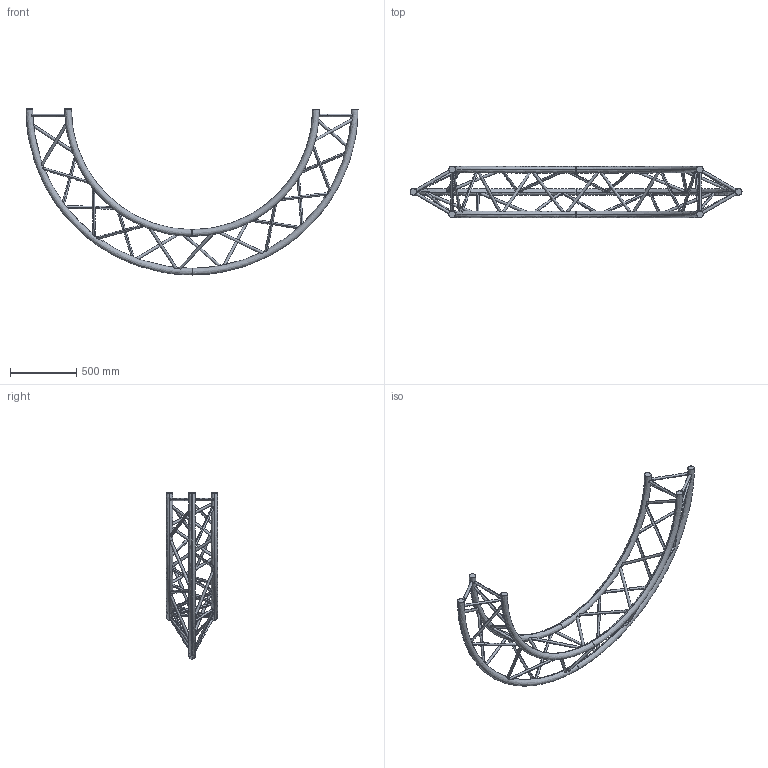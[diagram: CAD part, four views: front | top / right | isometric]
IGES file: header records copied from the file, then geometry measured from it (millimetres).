
Start section: SolidWorks IGES file using analytic representation for surfaces
Global section: file name: K:\BIBLIO\asd_biblio\SX390\Cercles\SXC39PE\SXC39250PE\SXC39250PE.IGS; native system: SolidWorks 2009; preprocessor: SolidWorks 2009; author: des3; date: 091021.135529; units: millimetre
Bounding box: 2500 x 387 x 1250 mm (x, y, z)
Surface area: 2390676.5 mm2 (no closed solid volume)
Topology: 0 solids, 0 shells, 96 faces, 6563 edges, 6563 vertices
Faces by surface type: revolution 78, bspline 18
